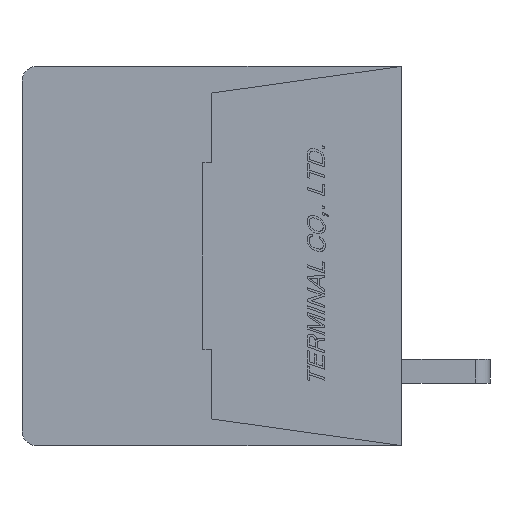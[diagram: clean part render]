
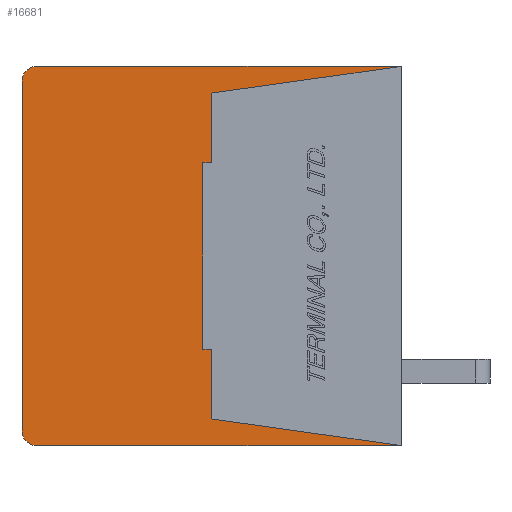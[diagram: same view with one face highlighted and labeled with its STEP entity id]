
A CAD part, left-side view. The second image highlights one B-rep face of the part: STEP entity #16681.
In plain terms, the highlighted planar face has unit normal (-1, 0, 0) as drawn and (1, 0, 0) by its records, which use the part's own axes.
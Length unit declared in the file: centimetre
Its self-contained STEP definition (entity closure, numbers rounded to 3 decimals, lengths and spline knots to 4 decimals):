
#850=CIRCLE('',#28261,0.05);
#851=CIRCLE('',#28262,0.05);
#1431=VERTEX_POINT('',#22850);
#1432=VERTEX_POINT('',#22852);
#1438=VERTEX_POINT('',#22866);
#1440=VERTEX_POINT('',#22872);
#1443=VERTEX_POINT('',#22880);
#1445=VERTEX_POINT('',#22886);
#1451=VERTEX_POINT('',#22900);
#1453=VERTEX_POINT('',#22906);
#1804=VERTEX_POINT('',#24444);
#1805=VERTEX_POINT('',#24446);
#1806=VERTEX_POINT('',#24448);
#1807=VERTEX_POINT('',#24450);
#3181=VECTOR('',#18818,1.);
#3188=VECTOR('',#18826,1.);
#3191=VECTOR('',#18830,1.);
#3194=VECTOR('',#18836,1.);
#3197=VECTOR('',#18840,1.);
#3204=VECTOR('',#18848,1.);
#3207=VECTOR('',#18852,1.);
#3625=VECTOR('',#19421,1.);
#3626=VECTOR('',#19424,1.);
#3627=VECTOR('',#19427,1.);
#5137=LINE('',#22851,#3181);
#5144=LINE('',#22865,#3188);
#5147=LINE('',#22871,#3191);
#5150=LINE('',#22879,#3194);
#5153=LINE('',#22885,#3197);
#5160=LINE('',#22899,#3204);
#5163=LINE('',#22905,#3207);
#5581=LINE('',#24443,#3625);
#5582=LINE('',#24447,#3626);
#5583=LINE('',#24451,#3627);
#7266=EDGE_CURVE('',#1432,#1431,#5137,.T.);
#7273=EDGE_CURVE('',#1438,#1432,#5144,.T.);
#7276=EDGE_CURVE('',#1440,#1438,#5147,.T.);
#7280=EDGE_CURVE('',#1443,#1440,#5150,.T.);
#7283=EDGE_CURVE('',#1445,#1443,#5153,.T.);
#7290=EDGE_CURVE('',#1451,#1445,#5160,.T.);
#7293=EDGE_CURVE('',#1453,#1451,#5163,.T.);
#7819=EDGE_CURVE('',#1431,#1804,#5581,.T.);
#7820=EDGE_CURVE('',#1805,#1804,#850,.T.);
#7821=EDGE_CURVE('',#1805,#1806,#5582,.T.);
#7822=EDGE_CURVE('',#1807,#1806,#851,.T.);
#7823=EDGE_CURVE('',#1807,#1453,#5583,.T.);
#11595=ORIENTED_EDGE('',*,*,#7266,.T.);
#11596=ORIENTED_EDGE('',*,*,#7819,.T.);
#11597=ORIENTED_EDGE('',*,*,#7820,.F.);
#11598=ORIENTED_EDGE('',*,*,#7821,.T.);
#11599=ORIENTED_EDGE('',*,*,#7822,.F.);
#11600=ORIENTED_EDGE('',*,*,#7823,.T.);
#11601=ORIENTED_EDGE('',*,*,#7293,.T.);
#11602=ORIENTED_EDGE('',*,*,#7290,.T.);
#11603=ORIENTED_EDGE('',*,*,#7283,.T.);
#11604=ORIENTED_EDGE('',*,*,#7280,.T.);
#11605=ORIENTED_EDGE('',*,*,#7276,.T.);
#11606=ORIENTED_EDGE('',*,*,#7273,.T.);
#14589=EDGE_LOOP('',(#11595,#11596,#11597,#11598,#11599,#11600,#11601,#11602,
#11603,#11604,#11605,#11606));
#15673=FACE_BOUND('',#14589,.T.);
#16681=ADVANCED_FACE('',(#15673),#17520,.F.);
#17520=PLANE('',#28260);
#18818=DIRECTION('',(0.,-0.99,-0.139));
#18826=DIRECTION('',(0.,0.,-1.));
#18830=DIRECTION('',(0.,-1.,0.));
#18836=DIRECTION('',(0.,0.,-1.));
#18840=DIRECTION('',(0.,1.,0.));
#18848=DIRECTION('',(0.,0.,-1.));
#18852=DIRECTION('',(0.,0.99,-0.139));
#19420=DIRECTION('',(-1.,0.,0.));
#19421=DIRECTION('',(0.,1.,0.));
#19422=DIRECTION('',(-1.,0.,0.));
#19423=DIRECTION('',(0.,0.,0.05));
#19424=DIRECTION('',(0.,0.,1.));
#19425=DIRECTION('',(-1.,0.,0.));
#19426=DIRECTION('',(0.,0.,0.05));
#19427=DIRECTION('',(0.,-1.,0.));
#22850=CARTESIAN_POINT('',(0.,0.,-0.64));
#22851=CARTESIAN_POINT('',(0.,0.64,-0.55));
#22852=CARTESIAN_POINT('',(0.,0.64,-0.55));
#22865=CARTESIAN_POINT('',(0.,0.64,-0.315));
#22866=CARTESIAN_POINT('',(0.,0.64,-0.315));
#22871=CARTESIAN_POINT('',(0.,0.67,-0.315));
#22872=CARTESIAN_POINT('',(0.,0.67,-0.315));
#22879=CARTESIAN_POINT('',(0.,0.67,0.315));
#22880=CARTESIAN_POINT('',(0.,0.67,0.315));
#22885=CARTESIAN_POINT('',(0.,0.64,0.315));
#22886=CARTESIAN_POINT('',(0.,0.64,0.315));
#22899=CARTESIAN_POINT('',(0.,0.64,0.55));
#22900=CARTESIAN_POINT('',(0.,0.64,0.55));
#22905=CARTESIAN_POINT('',(0.,0.,0.64));
#22906=CARTESIAN_POINT('',(0.,0.,0.64));
#24442=CARTESIAN_POINT('',(0.,0.6345,0.));
#24443=CARTESIAN_POINT('',(0.,0.,-0.64));
#24444=CARTESIAN_POINT('',(0.,1.23,-0.64));
#24445=CARTESIAN_POINT('',(0.,1.23,-0.59));
#24446=CARTESIAN_POINT('',(0.,1.28,-0.59));
#24447=CARTESIAN_POINT('',(0.,1.28,-0.59));
#24448=CARTESIAN_POINT('',(0.,1.28,0.59));
#24449=CARTESIAN_POINT('',(0.,1.23,0.59));
#24450=CARTESIAN_POINT('',(0.,1.23,0.64));
#24451=CARTESIAN_POINT('',(0.,1.23,0.64));
#28260=AXIS2_PLACEMENT_3D('',#24442,#19420,$);
#28261=AXIS2_PLACEMENT_3D('',#24445,#19422,#19423);
#28262=AXIS2_PLACEMENT_3D('',#24449,#19425,#19426);
